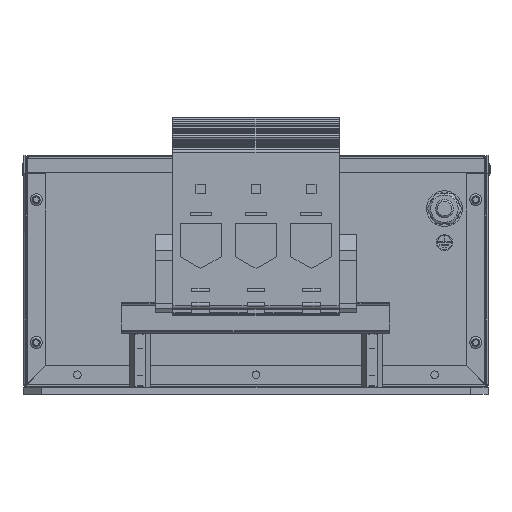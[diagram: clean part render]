
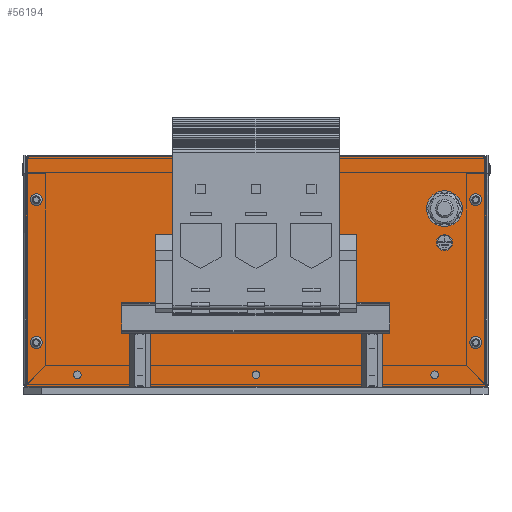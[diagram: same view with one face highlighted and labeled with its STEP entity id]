
A CAD part, left-side view. The second image highlights one B-rep face of the part: STEP entity #56194.
In plain terms, the highlighted free-form (B-spline) face has degree [1, 1] with [2, 2] control points.
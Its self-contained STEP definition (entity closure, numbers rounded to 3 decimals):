
#1169=CARTESIAN_POINT('',(-265.,126.4,105.));
#1170=VERTEX_POINT('',#1169);
#1171=CARTESIAN_POINT('',(-265.,123.,105.));
#1172=DIRECTION('',(1.0,0.0,0.0));
#1173=DIRECTION('',(0.0,1.0,0.0));
#1174=AXIS2_PLACEMENT_3D('',#1171,#1172,#1173);
#1175=CIRCLE('',#1174,3.4);
#1176=EDGE_CURVE('',#1170,#1170,#1175,.T.);
#1537=CARTESIAN_POINT('',(-265.,126.4,25.));
#1538=VERTEX_POINT('',#1537);
#1539=CARTESIAN_POINT('',(-265.,123.,25.));
#1540=DIRECTION('',(1.0,0.0,0.0));
#1541=DIRECTION('',(0.0,1.0,0.0));
#1542=AXIS2_PLACEMENT_3D('',#1539,#1540,#1541);
#1543=CIRCLE('',#1542,3.4);
#1544=EDGE_CURVE('',#1538,#1538,#1543,.T.);
#1905=CARTESIAN_POINT('',(-265.,-119.6,105.));
#1906=VERTEX_POINT('',#1905);
#1907=CARTESIAN_POINT('',(-265.,-123.,105.));
#1908=DIRECTION('',(1.0,0.0,0.0));
#1909=DIRECTION('',(0.0,1.0,0.0));
#1910=AXIS2_PLACEMENT_3D('',#1907,#1908,#1909);
#1911=CIRCLE('',#1910,3.4);
#1912=EDGE_CURVE('',#1906,#1906,#1911,.T.);
#2273=CARTESIAN_POINT('',(-265.,-119.6,25.));
#2274=VERTEX_POINT('',#2273);
#2275=CARTESIAN_POINT('',(-265.0,-123.,25.));
#2276=DIRECTION('',(1.0,0.0,0.0));
#2277=DIRECTION('',(0.0,1.0,0.0));
#2278=AXIS2_PLACEMENT_3D('',#2275,#2276,#2277);
#2279=CIRCLE('',#2278,3.4);
#2280=EDGE_CURVE('',#2274,#2274,#2279,.T.);
#48543=CARTESIAN_POINT('',(-265.,46.5,129.));
#48544=VERTEX_POINT('',#48543);
#48551=CARTESIAN_POINT('',(-265.,46.5,58.));
#48552=VERTEX_POINT('',#48551);
#48553=CARTESIAN_POINT('',(-265.,46.5,58.));
#48554=DIRECTION('',(0.0,0.0,1.0));
#48555=VECTOR('',#48554,71.);
#48556=LINE('',#48553,#48555);
#48557=EDGE_CURVE('',#48552,#48544,#48556,.T.);
#56065=CARTESIAN_POINT('',(-265.,128.5,129.));
#56066=CARTESIAN_POINT('',(-265.,128.5,0.5));
#56067=CARTESIAN_POINT('',(-265.0,-128.5,129.));
#56068=CARTESIAN_POINT('',(-265.,-128.5,0.5));
#56069=B_SPLINE_SURFACE_WITH_KNOTS('',1,1,((#56065,#56067),(#56066,#56068)),.UNSPECIFIED.,.F.,.F.,.U.,(2,2),(2,2),(0.0,128.5),(0.0,257.),.UNSPECIFIED.);
#56070=CARTESIAN_POINT('',(-265.,-46.5,58.));
#56071=VERTEX_POINT('',#56070);
#56072=CARTESIAN_POINT('',(-265.,46.5,58.));
#56073=DIRECTION('',(0.0,-1.0,0.0));
#56074=VECTOR('',#56073,93.0);
#56075=LINE('',#56072,#56074);
#56076=EDGE_CURVE('',#48552,#56071,#56075,.T.);
#56077=ORIENTED_EDGE('',*,*,#56076,.F.);
#56078=ORIENTED_EDGE('',*,*,#48557,.T.);
#56079=CARTESIAN_POINT('',(-265.,128.5,129.));
#56080=VERTEX_POINT('',#56079);
#56081=CARTESIAN_POINT('',(-265.,46.5,129.));
#56082=DIRECTION('',(0.0,1.0,0.0));
#56083=VECTOR('',#56082,82.);
#56084=LINE('',#56081,#56083);
#56085=EDGE_CURVE('',#48544,#56080,#56084,.T.);
#56086=ORIENTED_EDGE('',*,*,#56085,.T.);
#56087=CARTESIAN_POINT('',(-265.,128.5,0.5));
#56088=VERTEX_POINT('',#56087);
#56089=CARTESIAN_POINT('',(-265.,128.5,0.5));
#56090=DIRECTION('',(0.0,0.0,1.0));
#56091=VECTOR('',#56090,128.5);
#56092=LINE('',#56089,#56091);
#56093=EDGE_CURVE('',#56088,#56080,#56092,.T.);
#56094=ORIENTED_EDGE('',*,*,#56093,.F.);
#56095=CARTESIAN_POINT('',(-265.,-128.5,0.5));
#56096=VERTEX_POINT('',#56095);
#56097=CARTESIAN_POINT('',(-265.,128.5,0.5));
#56098=DIRECTION('',(0.0,-1.0,0.0));
#56099=VECTOR('',#56098,257.0);
#56100=LINE('',#56097,#56099);
#56101=EDGE_CURVE('',#56088,#56096,#56100,.T.);
#56102=ORIENTED_EDGE('',*,*,#56101,.T.);
#56103=CARTESIAN_POINT('',(-265.0,-128.5,129.));
#56104=VERTEX_POINT('',#56103);
#56105=CARTESIAN_POINT('',(-265.,-128.5,0.5));
#56106=DIRECTION('',(0.0,0.0,1.0));
#56107=VECTOR('',#56106,128.5);
#56108=LINE('',#56105,#56107);
#56109=EDGE_CURVE('',#56096,#56104,#56108,.T.);
#56110=ORIENTED_EDGE('',*,*,#56109,.T.);
#56111=CARTESIAN_POINT('',(-265.,-46.5,129.));
#56112=VERTEX_POINT('',#56111);
#56113=CARTESIAN_POINT('',(-265.0,-128.5,129.));
#56114=DIRECTION('',(0.0,1.0,0.0));
#56115=VECTOR('',#56114,82.);
#56116=LINE('',#56113,#56115);
#56117=EDGE_CURVE('',#56104,#56112,#56116,.T.);
#56118=ORIENTED_EDGE('',*,*,#56117,.T.);
#56119=CARTESIAN_POINT('',(-265.,-46.5,129.));
#56120=DIRECTION('',(0.0,0.0,-1.0));
#56121=VECTOR('',#56120,71.);
#56122=LINE('',#56119,#56121);
#56123=EDGE_CURVE('',#56112,#56071,#56122,.T.);
#56124=ORIENTED_EDGE('',*,*,#56123,.T.);
#56125=EDGE_LOOP('',(#56077,#56078,#56086,#56094,#56102,#56110,#56118,#56124));
#56126=FACE_OUTER_BOUND('',#56125,.T.);
#56127=ORIENTED_EDGE('',*,*,#1176,.T.);
#56128=EDGE_LOOP('',(#56127));
#56129=FACE_BOUND('',#56128,.T.);
#56130=ORIENTED_EDGE('',*,*,#1544,.T.);
#56131=EDGE_LOOP('',(#56130));
#56132=FACE_BOUND('',#56131,.T.);
#56133=ORIENTED_EDGE('',*,*,#1912,.T.);
#56134=EDGE_LOOP('',(#56133));
#56135=FACE_BOUND('',#56134,.T.);
#56136=ORIENTED_EDGE('',*,*,#2280,.T.);
#56137=EDGE_LOOP('',(#56136));
#56138=FACE_BOUND('',#56137,.T.);
#56139=CARTESIAN_POINT('',(-265.,-105.5,91.75));
#56140=VERTEX_POINT('',#56139);
#56141=CARTESIAN_POINT('',(-265.,-105.5,100.));
#56142=DIRECTION('',(1.0,0.0,0.0));
#56143=DIRECTION('',(0.0,0.0,-1.0));
#56144=AXIS2_PLACEMENT_3D('',#56141,#56142,#56143);
#56145=CIRCLE('',#56144,8.25);
#56146=EDGE_CURVE('',#56140,#56140,#56145,.T.);
#56147=ORIENTED_EDGE('',*,*,#56146,.T.);
#56148=EDGE_LOOP('',(#56147));
#56149=FACE_BOUND('',#56148,.T.);
#56150=CARTESIAN_POINT('',(-265.,97.85,7.));
#56151=VERTEX_POINT('',#56150);
#56152=CARTESIAN_POINT('',(-265.,100.,7.));
#56153=DIRECTION('',(-1.0,0.0,0.0));
#56154=DIRECTION('',(0.0,1.0,0.0));
#56155=AXIS2_PLACEMENT_3D('',#56152,#56153,#56154);
#56156=CIRCLE('',#56155,2.15);
#56157=EDGE_CURVE('',#56151,#56151,#56156,.T.);
#56158=ORIENTED_EDGE('',*,*,#56157,.F.);
#56159=EDGE_LOOP('',(#56158));
#56160=FACE_BOUND('',#56159,.T.);
#56161=CARTESIAN_POINT('',(-265.,-97.85,7.));
#56162=VERTEX_POINT('',#56161);
#56163=CARTESIAN_POINT('',(-265.,-100.,7.));
#56164=DIRECTION('',(1.0,0.0,0.0));
#56165=DIRECTION('',(0.0,-1.0,0.0));
#56166=AXIS2_PLACEMENT_3D('',#56163,#56164,#56165);
#56167=CIRCLE('',#56166,2.15);
#56168=EDGE_CURVE('',#56162,#56162,#56167,.T.);
#56169=ORIENTED_EDGE('',*,*,#56168,.T.);
#56170=EDGE_LOOP('',(#56169));
#56171=FACE_BOUND('',#56170,.T.);
#56172=CARTESIAN_POINT('',(-265.,0.,9.15));
#56173=VERTEX_POINT('',#56172);
#56174=CARTESIAN_POINT('',(-265.,0.,7.));
#56175=DIRECTION('',(1.0,0.0,0.0));
#56176=DIRECTION('',(0.0,-1.0,0.0));
#56177=AXIS2_PLACEMENT_3D('',#56174,#56175,#56176);
#56178=CIRCLE('',#56177,2.15);
#56179=EDGE_CURVE('',#56173,#56173,#56178,.T.);
#56180=ORIENTED_EDGE('',*,*,#56179,.T.);
#56181=EDGE_LOOP('',(#56180));
#56182=FACE_BOUND('',#56181,.T.);
#56183=CARTESIAN_POINT('',(-265.,-110.,81.0));
#56184=VERTEX_POINT('',#56183);
#56185=CARTESIAN_POINT('',(-265.,-105.5,81.0));
#56186=DIRECTION('',(-1.0,0.0,0.0));
#56187=DIRECTION('',(0.0,1.0,0.0));
#56188=AXIS2_PLACEMENT_3D('',#56185,#56186,#56187);
#56189=CIRCLE('',#56188,4.5);
#56190=EDGE_CURVE('',#56184,#56184,#56189,.T.);
#56191=ORIENTED_EDGE('',*,*,#56190,.F.);
#56192=EDGE_LOOP('',(#56191));
#56193=FACE_BOUND('',#56192,.T.);
#56194=ADVANCED_FACE('',(#56126,#56129,#56132,#56135,#56138,#56149,#56160,#56171,#56182,#56193),#56069,.T.);
